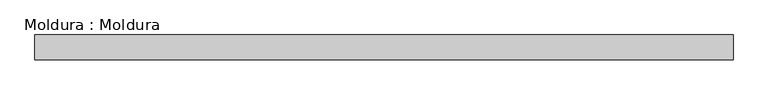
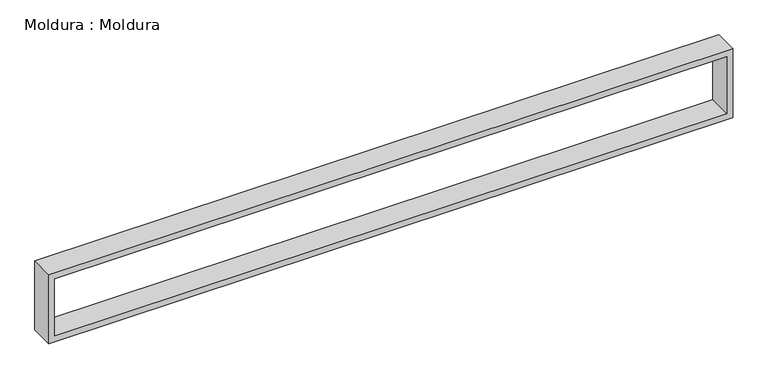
"""IFC4 building model written with IfcOpenShell, lengths in millimetres: proxy geometry, Moldura : Moldura."""

from ifc_helpers import new_model, si_unit, frame, origin, place, context, project, spatial, polyline, outline, extrude, source, transform, mapped, element, save


def moldura_moldura_8656ffbe(model_context):
    return source(origin(), model_context, "Body", "SweptSolid", [
        extrude(outline(polyline([(2650.0, 12120.3673655), (2050.0, 12120.3673655), (2050.0, 17770.3673655), (2650.0, 17770.3673655), (2650.0, 12120.3673655)]), holes=[polyline([(2600.0, 17720.3673655), (2100.0, 17720.3673655), (2100.0, 12170.3673655), (2600.0, 12170.3673655), (2600.0, 17720.3673655)])]), frame((0.0, -8241.1116245, 0.0), z_axis=(0.0, 1.0, 0.0), x_axis=(0.0, 0.0, 1.0)), (0.0, 0.0, 1.0), 200.0),
    ])


if __name__ == "__main__":
    model = new_model("IFC4")
    model_context = context("Model", 3, world=origin())
    ifc_project = project(units=[si_unit("LENGTHUNIT", "METRE", prefix="MILLI")], contexts=[model_context])
    site = spatial("IfcSite", under=ifc_project)
    building = spatial("IfcBuilding", under=site)
    placement = place(None, origin())
    moldura_moldura_shape = moldura_moldura_8656ffbe(model_context)
    element("IfcBuildingElementProxy", 1, Name="Moldura : Moldura", ObjectType="Moldura : Moldura", at=placement, inside=building, context=model_context, shape_type="MappedRepresentation", body=[
        mapped(moldura_moldura_shape, transform((0.0, 0.0, 0.0), x_axis=(1.0, 0.0, 0.0), y_axis=(0.0, 1.0, 0.0), z_axis=(0.0, 0.0, 1.0))),
    ])
    save(model, "model.ifc")
